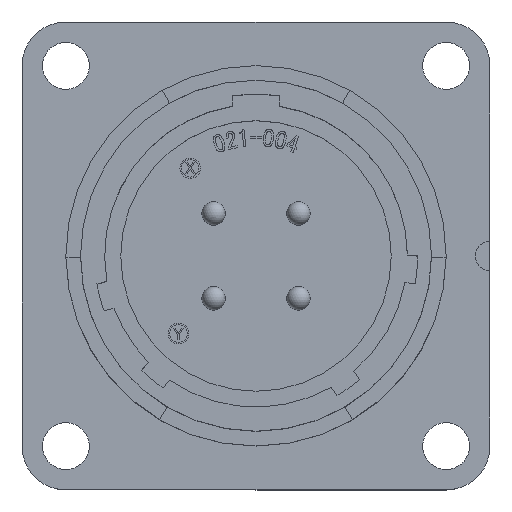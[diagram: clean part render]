
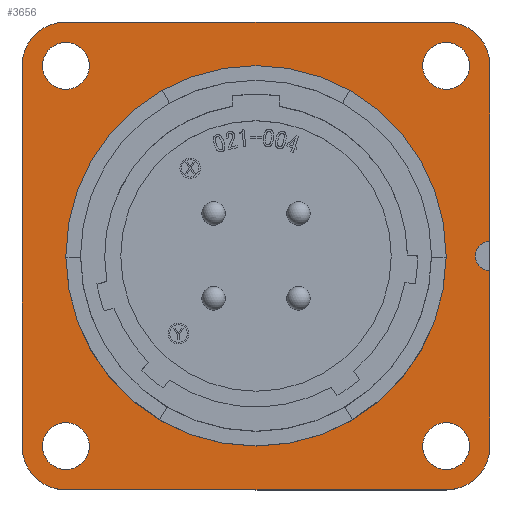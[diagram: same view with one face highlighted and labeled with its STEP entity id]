
A CAD part, top view. The second image highlights one B-rep face of the part: STEP entity #3656.
In plain terms, the highlighted planar face has unit normal (0, 0, 1).
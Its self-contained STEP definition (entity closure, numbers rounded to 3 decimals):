
#114 = CARTESIAN_POINT ( 'NONE',  ( 16., 0., -10.5 ) ) ;
#228 = CIRCLE ( 'NONE', #4916, 13. ) ;
#287 = AXIS2_PLACEMENT_3D ( 'NONE', #13453, #2881, #6344 ) ;
#309 = EDGE_CURVE ( 'NONE', #14896, #14773, #3449, .T. ) ;
#423 = DIRECTION ( 'NONE',  ( 0., 0., 1. ) ) ;
#511 = EDGE_CURVE ( 'NONE', #1545, #1545, #11752, .T. ) ;
#541 = EDGE_CURVE ( 'NONE', #7368, #7368, #1764, .T. ) ;
#548 = CARTESIAN_POINT ( 'NONE',  ( 13., 13., -10.5 ) ) ;
#559 = EDGE_CURVE ( 'NONE', #14896, #6739, #7585, .T. ) ;
#695 = CARTESIAN_POINT ( 'NONE',  ( 13., -13., -10.5 ) ) ;
#882 = AXIS2_PLACEMENT_3D ( 'NONE', #12788, #4770, #1250 ) ;
#1009 = AXIS2_PLACEMENT_3D ( 'NONE', #8084, #2286, #11618 ) ;
#1189 = CARTESIAN_POINT ( 'NONE',  ( -13., -16., -10.5 ) ) ;
#1213 = CARTESIAN_POINT ( 'NONE',  ( 16., 1., -10.5 ) ) ;
#1237 = DIRECTION ( 'NONE',  ( 0., -1., 0. ) ) ;
#1250 = DIRECTION ( 'NONE',  ( -1., 0., 0. ) ) ;
#1418 = DIRECTION ( 'NONE',  ( -1., 0., 0. ) ) ;
#1520 = CARTESIAN_POINT ( 'NONE',  ( 0., 16., -10.5 ) ) ;
#1535 = CARTESIAN_POINT ( 'NONE',  ( -13., -13., -10.5 ) ) ;
#1545 = VERTEX_POINT ( 'NONE', #14836 ) ;
#1601 = CARTESIAN_POINT ( 'NONE',  ( 16., -1., -10.5 ) ) ;
#1699 = CARTESIAN_POINT ( 'NONE',  ( 0., -16., -10.5 ) ) ;
#1764 = CIRCLE ( 'NONE', #8064, 1.6 ) ;
#1792 = VERTEX_POINT ( 'NONE', #8316 ) ;
#1938 = CARTESIAN_POINT ( 'NONE',  ( 16., 0., -10.5 ) ) ;
#2066 = ORIENTED_EDGE ( 'NONE', *, *, #559, .T. ) ;
#2286 = DIRECTION ( 'NONE',  ( 0., 0., -1. ) ) ;
#2501 = CIRCLE ( 'NONE', #12666, 1.6 ) ;
#2653 = DIRECTION ( 'NONE',  ( 0., 1., 0. ) ) ;
#2881 = DIRECTION ( 'NONE',  ( 0., 0., -1. ) ) ;
#2942 = DIRECTION ( 'NONE',  ( 0., 0., -1. ) ) ;
#2994 = EDGE_CURVE ( 'NONE', #7559, #7559, #10212, .T. ) ;
#3421 = EDGE_CURVE ( 'NONE', #8514, #13116, #5656, .T. ) ;
#3449 = LINE ( 'NONE', #1699, #4711 ) ;
#3656 = ADVANCED_FACE ( 'NONE', ( #8225, #14479, #9120, #10957, #11331, #6024 ), #4898, .F. ) ;
#3708 = EDGE_CURVE ( 'NONE', #9797, #6739, #7485, .T. ) ;
#3713 = CARTESIAN_POINT ( 'NONE',  ( -13., 16., -10.5 ) ) ;
#3926 = DIRECTION ( 'NONE',  ( -1., 0., 0. ) ) ;
#4094 = CARTESIAN_POINT ( 'NONE',  ( -13., 13., -10.5 ) ) ;
#4182 = DIRECTION ( 'NONE',  ( 1., 0., 0. ) ) ;
#4313 = CARTESIAN_POINT ( 'NONE',  ( -13., 0., -10.5 ) ) ;
#4387 = VECTOR ( 'NONE', #9479, 1000. ) ;
#4703 = DIRECTION ( 'NONE',  ( 1., 0., 0. ) ) ;
#4711 = VECTOR ( 'NONE', #12207, 1000. ) ;
#4770 = DIRECTION ( 'NONE',  ( 0., 0., 1. ) ) ;
#4898 = PLANE ( 'NONE',  #8668 ) ;
#4916 = AXIS2_PLACEMENT_3D ( 'NONE', #14671, #5190, #7626 ) ;
#4948 = CIRCLE ( 'NONE', #11350, 3. ) ;
#5179 = DIRECTION ( 'NONE',  ( 0., 0., 1. ) ) ;
#5190 = DIRECTION ( 'NONE',  ( 0., 0., -1. ) ) ;
#5191 = ORIENTED_EDGE ( 'NONE', *, *, #3708, .F. ) ;
#5296 = ORIENTED_EDGE ( 'NONE', *, *, #3421, .F. ) ;
#5350 = CARTESIAN_POINT ( 'NONE',  ( 13., 14.6, -10.5 ) ) ;
#5552 = ORIENTED_EDGE ( 'NONE', *, *, #10303, .F. ) ;
#5560 = VERTEX_POINT ( 'NONE', #7614 ) ;
#5656 = LINE ( 'NONE', #5926, #13733 ) ;
#5689 = EDGE_CURVE ( 'NONE', #10856, #5560, #8909, .T. ) ;
#5732 = VERTEX_POINT ( 'NONE', #4313 ) ;
#5800 = ORIENTED_EDGE ( 'NONE', *, *, #5689, .T. ) ;
#5926 = CARTESIAN_POINT ( 'NONE',  ( 16., 0., -10.5 ) ) ;
#5928 = VERTEX_POINT ( 'NONE', #8963 ) ;
#5968 = ORIENTED_EDGE ( 'NONE', *, *, #7903, .T. ) ;
#6003 = EDGE_CURVE ( 'NONE', #13116, #9797, #9467, .T. ) ;
#6024 = FACE_BOUND ( 'NONE', #14685, .T. ) ;
#6275 = EDGE_LOOP ( 'NONE', ( #9233 ) ) ;
#6344 = DIRECTION ( 'NONE',  ( 0., -1., 0. ) ) ;
#6435 = DIRECTION ( 'NONE',  ( 0., 0., 1. ) ) ;
#6698 = LINE ( 'NONE', #12932, #12567 ) ;
#6739 = VERTEX_POINT ( 'NONE', #10591 ) ;
#7368 = VERTEX_POINT ( 'NONE', #5350 ) ;
#7485 = LINE ( 'NONE', #114, #4387 ) ;
#7559 = VERTEX_POINT ( 'NONE', #14726 ) ;
#7585 = CIRCLE ( 'NONE', #14365, 3. ) ;
#7614 = CARTESIAN_POINT ( 'NONE',  ( -16., 13., -10.5 ) ) ;
#7626 = DIRECTION ( 'NONE',  ( -1., 0., 0. ) ) ;
#7903 = EDGE_CURVE ( 'NONE', #5732, #5732, #228, .T. ) ;
#8064 = AXIS2_PLACEMENT_3D ( 'NONE', #548, #2942, #13461 ) ;
#8084 = CARTESIAN_POINT ( 'NONE',  ( 13., 13., -10.5 ) ) ;
#8225 = FACE_OUTER_BOUND ( 'NONE', #8881, .T. ) ;
#8288 = DIRECTION ( 'NONE',  ( 0., 0., -1. ) ) ;
#8316 = CARTESIAN_POINT ( 'NONE',  ( -16., -13., -10.5 ) ) ;
#8514 = VERTEX_POINT ( 'NONE', #12626 ) ;
#8668 = AXIS2_PLACEMENT_3D ( 'NONE', #10595, #8288, #1418 ) ;
#8739 = EDGE_CURVE ( 'NONE', #1792, #14773, #4948, .T. ) ;
#8881 = EDGE_LOOP ( 'NONE', ( #5191, #10473, #5296, #13591, #5552, #5800, #11672, #9174, #10425, #2066 ) ) ;
#8909 = CIRCLE ( 'NONE', #882, 3. ) ;
#8963 = CARTESIAN_POINT ( 'NONE',  ( 14.6, -13., -10.5 ) ) ;
#9120 = FACE_BOUND ( 'NONE', #6275, .T. ) ;
#9174 = ORIENTED_EDGE ( 'NONE', *, *, #8739, .T. ) ;
#9233 = ORIENTED_EDGE ( 'NONE', *, *, #511, .T. ) ;
#9245 = VERTEX_POINT ( 'NONE', #13378 ) ;
#9392 = DIRECTION ( 'NONE',  ( 0., 0., -1. ) ) ;
#9467 = CIRCLE ( 'NONE', #11534, 1. ) ;
#9479 = DIRECTION ( 'NONE',  ( 0., -1., 0. ) ) ;
#9481 = LINE ( 'NONE', #1520, #15013 ) ;
#9797 = VERTEX_POINT ( 'NONE', #1601 ) ;
#9839 = EDGE_LOOP ( 'NONE', ( #13047 ) ) ;
#10010 = DIRECTION ( 'NONE',  ( -1., 0., 0. ) ) ;
#10212 = CIRCLE ( 'NONE', #287, 1.6 ) ;
#10303 = EDGE_CURVE ( 'NONE', #10856, #9245, #9481, .T. ) ;
#10425 = ORIENTED_EDGE ( 'NONE', *, *, #309, .F. ) ;
#10473 = ORIENTED_EDGE ( 'NONE', *, *, #6003, .F. ) ;
#10591 = CARTESIAN_POINT ( 'NONE',  ( 16., -13., -10.5 ) ) ;
#10595 = CARTESIAN_POINT ( 'NONE',  ( 0., 16., -10.5 ) ) ;
#10856 = VERTEX_POINT ( 'NONE', #3713 ) ;
#10903 = CIRCLE ( 'NONE', #1009, 3. ) ;
#10957 = FACE_BOUND ( 'NONE', #9839, .T. ) ;
#11331 = FACE_BOUND ( 'NONE', #11820, .T. ) ;
#11350 = AXIS2_PLACEMENT_3D ( 'NONE', #1535, #423, #3926 ) ;
#11396 = EDGE_CURVE ( 'NONE', #1792, #5560, #6698, .T. ) ;
#11534 = AXIS2_PLACEMENT_3D ( 'NONE', #1938, #6435, #4182 ) ;
#11618 = DIRECTION ( 'NONE',  ( -1., 0., 0. ) ) ;
#11659 = EDGE_CURVE ( 'NONE', #9245, #8514, #10903, .T. ) ;
#11672 = ORIENTED_EDGE ( 'NONE', *, *, #11396, .F. ) ;
#11752 = CIRCLE ( 'NONE', #14881, 1.6 ) ;
#11820 = EDGE_LOOP ( 'NONE', ( #13440 ) ) ;
#12029 = EDGE_LOOP ( 'NONE', ( #5968 ) ) ;
#12207 = DIRECTION ( 'NONE',  ( -1., 0., 0. ) ) ;
#12567 = VECTOR ( 'NONE', #2653, 1000. ) ;
#12589 = EDGE_CURVE ( 'NONE', #5928, #5928, #2501, .T. ) ;
#12626 = CARTESIAN_POINT ( 'NONE',  ( 16., 13., -10.5 ) ) ;
#12666 = AXIS2_PLACEMENT_3D ( 'NONE', #14282, #9392, #4703 ) ;
#12731 = ORIENTED_EDGE ( 'NONE', *, *, #2994, .T. ) ;
#12788 = CARTESIAN_POINT ( 'NONE',  ( -13., 13., -10.5 ) ) ;
#12932 = CARTESIAN_POINT ( 'NONE',  ( -16., 0., -10.5 ) ) ;
#13047 = ORIENTED_EDGE ( 'NONE', *, *, #541, .T. ) ;
#13116 = VERTEX_POINT ( 'NONE', #1213 ) ;
#13231 = CARTESIAN_POINT ( 'NONE',  ( 13., -16., -10.5 ) ) ;
#13264 = DIRECTION ( 'NONE',  ( 1., 0., 0. ) ) ;
#13361 = DIRECTION ( 'NONE',  ( -1., 0., 0. ) ) ;
#13378 = CARTESIAN_POINT ( 'NONE',  ( 13., 16., -10.5 ) ) ;
#13411 = DIRECTION ( 'NONE',  ( 0., 0., -1. ) ) ;
#13440 = ORIENTED_EDGE ( 'NONE', *, *, #12589, .T. ) ;
#13453 = CARTESIAN_POINT ( 'NONE',  ( -13., -13., -10.5 ) ) ;
#13461 = DIRECTION ( 'NONE',  ( 0., 1., 0. ) ) ;
#13591 = ORIENTED_EDGE ( 'NONE', *, *, #11659, .F. ) ;
#13733 = VECTOR ( 'NONE', #1237, 1000. ) ;
#14282 = CARTESIAN_POINT ( 'NONE',  ( 13., -13., -10.5 ) ) ;
#14365 = AXIS2_PLACEMENT_3D ( 'NONE', #695, #5179, #13361 ) ;
#14479 = FACE_BOUND ( 'NONE', #12029, .T. ) ;
#14671 = CARTESIAN_POINT ( 'NONE',  ( 0., 0., -10.5 ) ) ;
#14685 = EDGE_LOOP ( 'NONE', ( #12731 ) ) ;
#14726 = CARTESIAN_POINT ( 'NONE',  ( -13., -14.6, -10.5 ) ) ;
#14773 = VERTEX_POINT ( 'NONE', #1189 ) ;
#14836 = CARTESIAN_POINT ( 'NONE',  ( -14.6, 13., -10.5 ) ) ;
#14881 = AXIS2_PLACEMENT_3D ( 'NONE', #4094, #13411, #10010 ) ;
#14896 = VERTEX_POINT ( 'NONE', #13231 ) ;
#15013 = VECTOR ( 'NONE', #13264, 1000. ) ;
